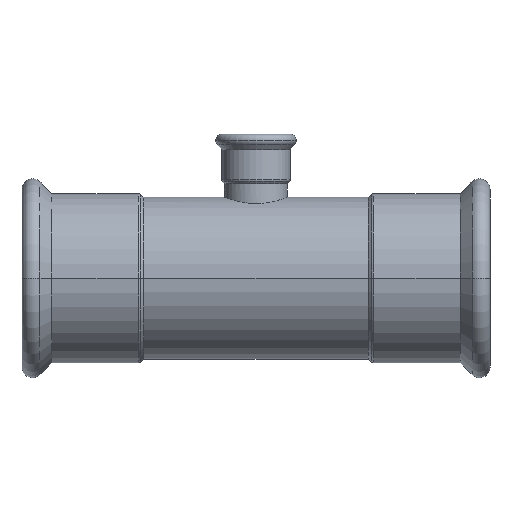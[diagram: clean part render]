
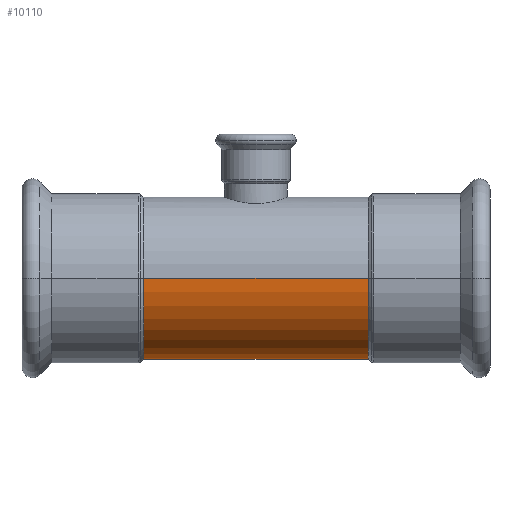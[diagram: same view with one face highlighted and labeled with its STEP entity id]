
A CAD part, front view. The second image highlights one B-rep face of the part: STEP entity #10110.
In plain terms, the highlighted cylindrical face has radius 54 mm (diameter 108 mm), a partial arc.
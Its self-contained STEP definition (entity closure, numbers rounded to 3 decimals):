
#860=CARTESIAN_POINT('',(24.846,134.131,0.));
#870=DIRECTION('',(1.,0.,0.));
#880=DIRECTION('',(0.,0.,-1.));
#890=AXIS2_PLACEMENT_3D('',#860,#870,#880);
#900=CYLINDRICAL_SURFACE('',#890,54.);
#4080=CARTESIAN_POINT('',(24.846,134.131,54.));
#4090=VERTEX_POINT('',#4080);
#4270=CARTESIAN_POINT('',(24.846,134.131,-54.));
#4280=VERTEX_POINT('',#4270);
#4310=CARTESIAN_POINT('',(24.846,134.131,0.));
#4320=DIRECTION('',(1.,0.,0.));
#4330=DIRECTION('',(0.,0.,1.));
#4340=AXIS2_PLACEMENT_3D('',#4310,#4320,#4330);
#4350=CIRCLE('',#4340,54.);
#4360=EDGE_CURVE('',#4090,#4280,#4350,.T.);
#9850=CARTESIAN_POINT('',(24.846,134.131,54.));
#9860=DIRECTION('',(1.,0.,0.));
#9870=VECTOR('',#9860,1.);
#9880=LINE('',#9850,#9870);
#9890=CARTESIAN_POINT('',(-125.154,134.131,54.));
#9900=VERTEX_POINT('',#9890);
#9910=EDGE_CURVE('',#9900,#4090,#9880,.T.);
#9920=ORIENTED_EDGE('',*,*,#9910,.F.);
#9930=ORIENTED_EDGE('',*,*,#4360,.F.);
#9940=CARTESIAN_POINT('',(24.846,134.131,-54.));
#9950=DIRECTION('',(1.,0.,0.));
#9960=VECTOR('',#9950,1.);
#9970=LINE('',#9940,#9960);
#9980=CARTESIAN_POINT('',(-125.154,134.131,-54.));
#9990=VERTEX_POINT('',#9980);
#10000=EDGE_CURVE('',#9990,#4280,#9970,.T.);
#10010=ORIENTED_EDGE('',*,*,#10000,.T.);
#10020=CARTESIAN_POINT('',(-125.154,134.131,0.));
#10030=DIRECTION('',(1.,0.,0.));
#10040=DIRECTION('',(0.,0.,-1.));
#10050=AXIS2_PLACEMENT_3D('',#10020,#10030,#10040);
#10060=CIRCLE('',#10050,54.);
#10070=EDGE_CURVE('',#9900,#9990,#10060,.T.);
#10080=ORIENTED_EDGE('',*,*,#10070,.T.);
#10090=EDGE_LOOP('',(#10080,#10010,#9930,#9920));
#10100=FACE_OUTER_BOUND('',#10090,.T.);
#10110=ADVANCED_FACE('',(#10100),#900,.T.);
